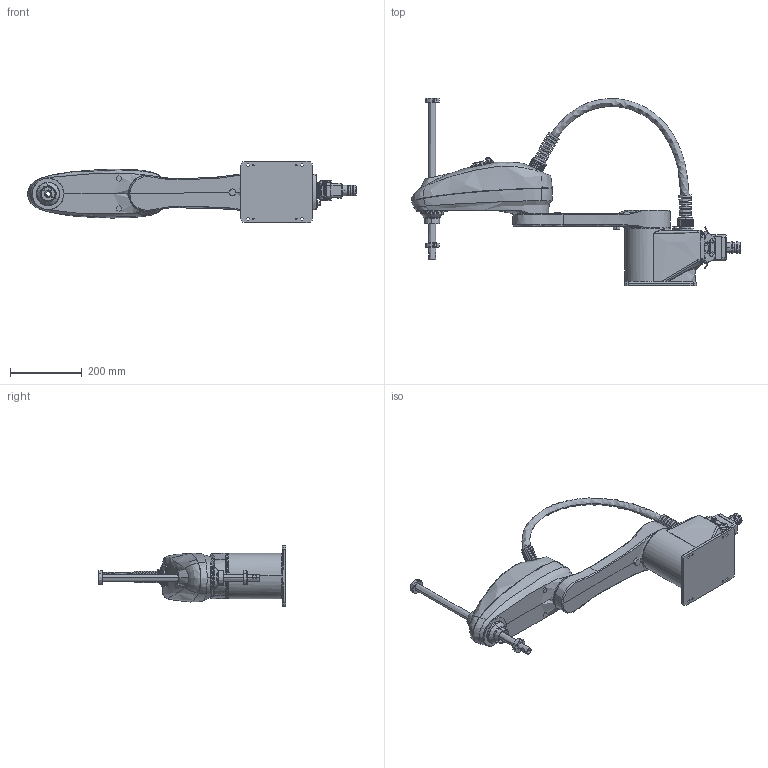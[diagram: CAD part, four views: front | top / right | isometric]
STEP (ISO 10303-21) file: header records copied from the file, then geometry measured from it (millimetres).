
FILE_DESCRIPTION (( 'STEP AP214' ), '1' );
FILE_NAME ('SCR006.STEP', '2018-12-10T06:01:15', ( 'USER' ), ( '' ), 'SwSTEP 2.0', 'SolidWorks 2014', '' );
FILE_SCHEMA (( 'AUTOMOTIVE_DESIGN' ));
Length unit declared in the file: millimetre
Products named in the file (10): 复件 复件 SCR006410-丝杆限位块6^SCR006; 葩璃 MANIFOLD_SOLID_BREP_132^SCR006; 狟滅鳥杶^SCR006; 俋諉盄奪; J2_Default<偌樓馱>; J1酗旋; J1菁釱; SCR006; hexagon socket head cap screws gb_GB_FASTENER_SCREWS_HSHCS M8X12-N; 葩璃 SCR006410-佪裝癹弇輸6^SCR006
Assembly tree (10 placements, depth 2):
  SCR006
    J1菁釱
    J1酗旋
    J2_Default<偌樓馱>
    俋諉盄奪
    狟滅鳥杶^SCR006
    葩璃 MANIFOLD_SOLID_BREP_132^SCR006
    复件 复件 SCR006410-丝杆限位块6^SCR006
    葩璃 SCR006410-佪裝癹弇輸6^SCR006
    hexagon socket head cap screws gb_GB_FASTENER_SCREWS_HSHCS M8X12-N  x2
Bounding box: 915.18 x 522.07 x 170 mm (x, y, z)
Volume: 10482707.4 mm3; surface area: 818958.9 mm2
Topology: 20 solids, 72 shells, 2799 faces, 6799 edges, 4248 vertices
Faces by surface type: plane 1181, cylinder 896, bspline 538, cone 146, torus 38
Entity records: 133294 total; most frequent: CARTESIAN_POINT 68216, ORIENTED_EDGE 13356, DIRECTION 11726, EDGE_CURVE 6678, AXIS2_PLACEMENT_3D 4308, VERTEX_POINT 4215, VECTOR 3110, LINE 3110
